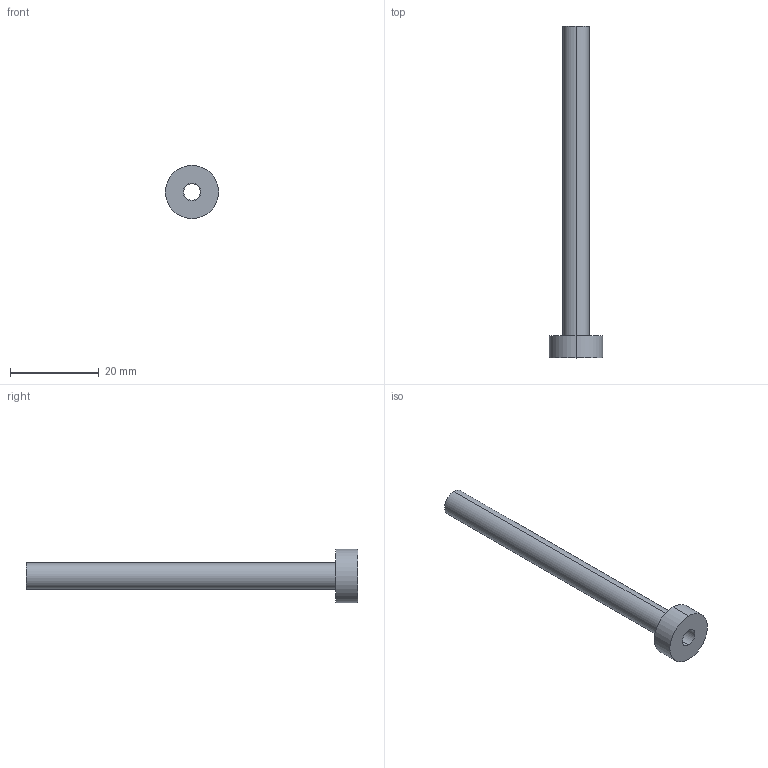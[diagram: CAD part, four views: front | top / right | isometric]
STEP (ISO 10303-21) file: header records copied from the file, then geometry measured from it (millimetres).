
FILE_DESCRIPTION (( 'STEP AP214' ), '1' );
FILE_NAME ('ET-ETN-3,7x75.STEP', '2019-12-16T14:52:51', ( 'August' ), ( '' ), 'SwSTEP 2.0', 'SolidWorks 2018', '' );
FILE_SCHEMA (( 'AUTOMOTIVE_DESIGN' ));
Length unit declared in the file: millimetre
Products named in the file (1): ET-ETN-3,7x75
Bounding box: 12 x 75 x 12 mm (x, y, z)
Volume: 1684 mm3; surface area: 2611.6 mm2
Topology: 1 solids, 1 shells, 13 faces, 26 edges, 16 vertices
Faces by surface type: cylinder 8, plane 3, cone 2
Entity records: 382 total; most frequent: DIRECTION 70, CARTESIAN_POINT 56, ORIENTED_EDGE 52, AXIS2_PLACEMENT_3D 30, EDGE_CURVE 26, CIRCLE 16, EDGE_LOOP 16, VERTEX_POINT 16
